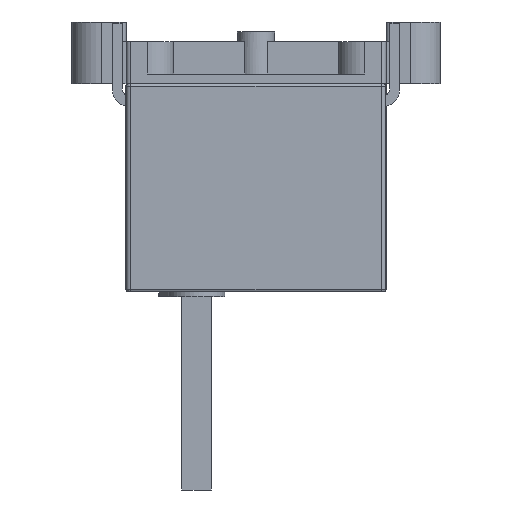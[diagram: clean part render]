
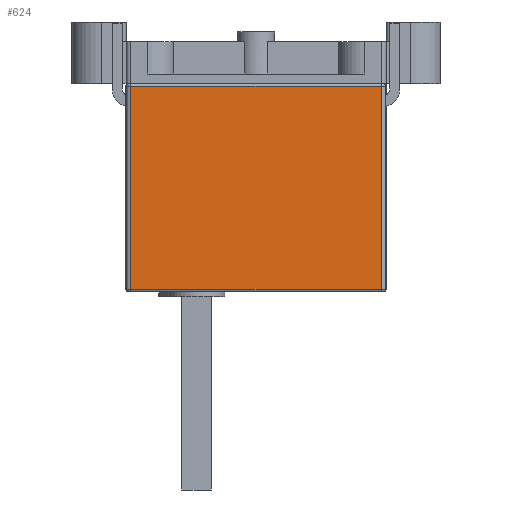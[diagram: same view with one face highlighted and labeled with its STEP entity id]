
A CAD part, left-side view. The second image highlights one B-rep face of the part: STEP entity #624.
In plain terms, the highlighted planar face has unit normal (-1, 0, 0).
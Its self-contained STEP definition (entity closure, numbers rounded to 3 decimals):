
#624=ADVANCED_FACE('',(#968),#827,.F.);
#827=PLANE('',#4578);
#968=FACE_OUTER_BOUND('',#1188,.T.);
#1188=EDGE_LOOP('',(#1928,#1929,#1930,#1931));
#1928=ORIENTED_EDGE('',*,*,#3346,.T.);
#1929=ORIENTED_EDGE('',*,*,#3347,.T.);
#1930=ORIENTED_EDGE('',*,*,#3343,.F.);
#1931=ORIENTED_EDGE('',*,*,#3348,.T.);
#2854=VERTEX_POINT('',#6856);
#2855=VERTEX_POINT('',#6857);
#2856=VERTEX_POINT('',#6862);
#2857=VERTEX_POINT('',#6863);
#3343=EDGE_CURVE('',#2854,#2855,#3814,.T.);
#3346=EDGE_CURVE('',#2856,#2857,#3815,.T.);
#3347=EDGE_CURVE('',#2857,#2855,#3816,.T.);
#3348=EDGE_CURVE('',#2854,#2856,#3817,.T.);
#3814=LINE('',#6855,#4178);
#3815=LINE('',#6861,#4179);
#3816=LINE('',#6864,#4180);
#3817=LINE('',#6865,#4181);
#4178=VECTOR('',#5475,1.);
#4179=VECTOR('',#5482,1.);
#4180=VECTOR('',#5483,1.);
#4181=VECTOR('',#5484,1.);
#4578=AXIS2_PLACEMENT_3D('',#6866,#5485,#5486);
#5475=DIRECTION('',(0.,0.,1.));
#5482=DIRECTION('',(0.,0.,1.));
#5483=DIRECTION('',(0.,1.,0.));
#5484=DIRECTION('',(0.,-1.,0.));
#5485=DIRECTION('',(1.,0.,0.));
#5486=DIRECTION('',(0.,1.,0.));
#6855=CARTESIAN_POINT('',(-197.5,50.5,-84.));
#6856=CARTESIAN_POINT('',(-197.5,50.5,-83.));
#6857=CARTESIAN_POINT('',(-197.5,50.5,-1.));
#6861=CARTESIAN_POINT('',(-197.5,-50.5,-84.));
#6862=CARTESIAN_POINT('',(-197.5,-50.5,-83.));
#6863=CARTESIAN_POINT('',(-197.5,-50.5,-1.));
#6864=CARTESIAN_POINT('',(-197.5,-50.5,-1.));
#6865=CARTESIAN_POINT('',(-197.5,-50.5,-83.));
#6866=CARTESIAN_POINT('',(-197.5,-50.5,-84.));
